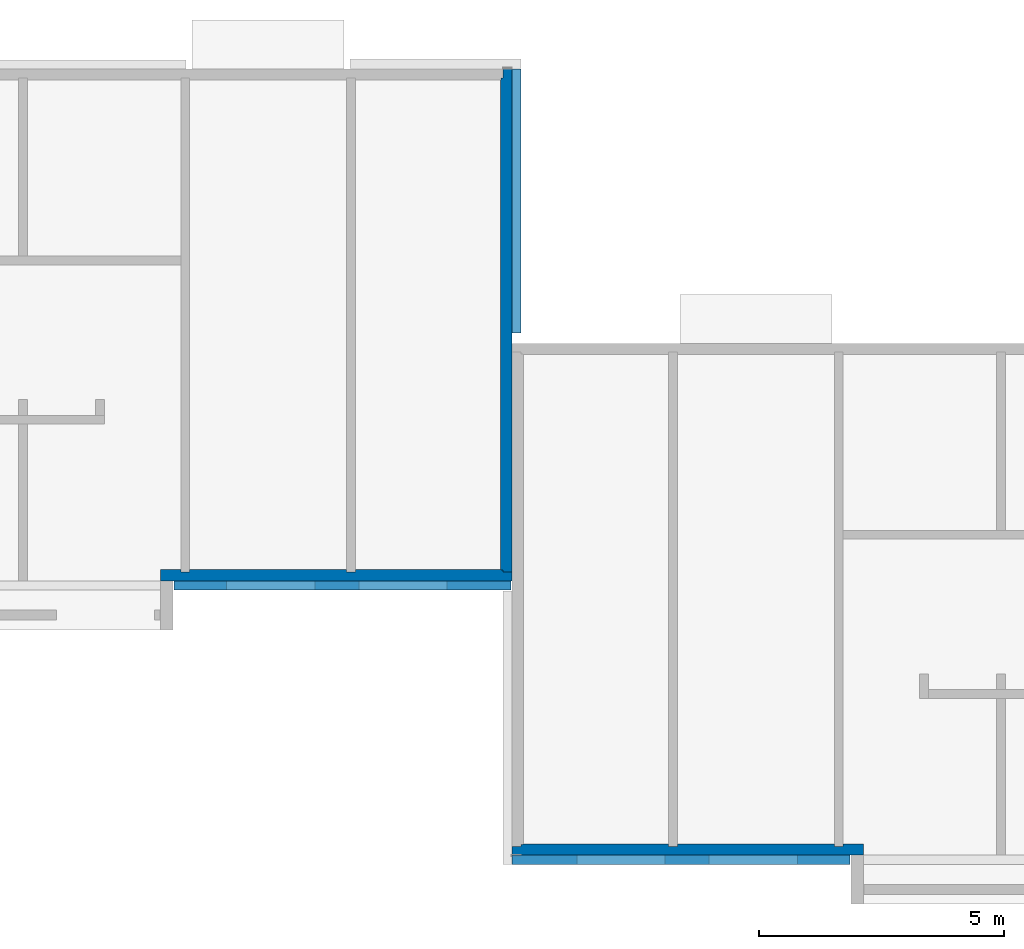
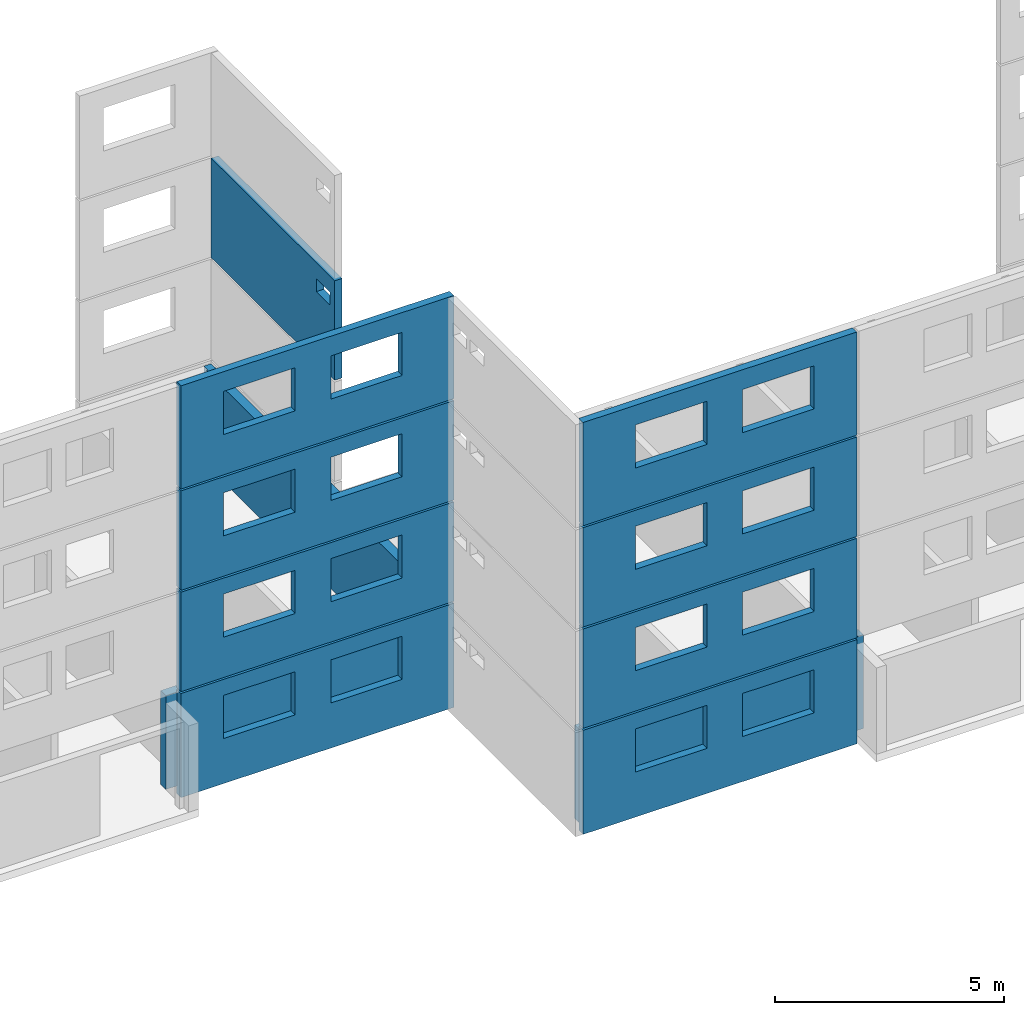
# One storey, part 12 of 15: 12 walls, 17 openings.
"""IFC2X3 building model written with IfcOpenShell, lengths in metres."""

from ifc_helpers import new_model, si_unit, frame, origin, place, context, project, spatial, faceted_brep, element, save


model = new_model("IFC2X3")

# Units and contexts
model_context = context("Model", 3, precision=1e-06, world=origin())
ifc_project = project(units=[si_unit("LENGTHUNIT", "METRE"), si_unit("PLANEANGLEUNIT", "RADIAN")], contexts=[model_context])

# Site, building, storey
site = spatial("IfcSite", under=ifc_project, CompositionType="ELEMENT")
building = spatial("IfcBuilding", under=site, CompositionType="ELEMENT")
storey = spatial("IfcBuildingStorey", under=building, Name="rdc", CompositionType="ELEMENT", Elevation=0.0)

# Wall, opening
placement = place(None, origin())
wall_1_placement = place(placement, frame((39.886999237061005, 5.080077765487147, 5.325000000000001), z_axis=(0.0, 0.0, 1.0), x_axis=(0.0, 1.0, 0.0)))
wall_1 = element("IfcWall", 1, at=wall_1_placement, inside=storey, Name="rdc1", context=model_context, shape_type="Brep", body=[
    faceted_brep([(0.0, 0.0, 2.65), (0.0, 0.187, 2.65), (0.0, 0.187, 0.0), (0.0, 0.0, 0.0), (0.0, 0.187, 2.65), (5.389999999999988, 0.187, 2.65), (5.389999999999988, 0.187, 0.0), (0.0, 0.187, 0.0), (5.389999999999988, 0.187, 2.65), (5.389999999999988, 0.0, 2.65), (5.389999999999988, 0.0, 0.0), (5.389999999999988, 0.187, 0.0), (5.389999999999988, 0.0, 2.65), (0.0, 0.0, 2.65), (0.0, 0.0, 0.0), (5.389999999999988, 0.0, 0.0), (0.0, 0.0, 2.65), (5.389999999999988, 0.0, 2.65), (5.389999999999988, 0.187, 2.65), (0.0, 0.187, 2.65), (0.0, 0.0, 0.0), (0.0, 0.187, 0.0), (5.389999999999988, 0.187, 0.0), (5.389999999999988, 0.0, 0.0)], [[[0, 1, 2, 3]], [[4, 5, 6, 7]], [[8, 9, 10, 11]], [[12, 13, 14, 15]], [[16, 17, 18, 19]], [[20, 21, 22, 23]]]),
])
opening_1_placement = place(placement, frame((39.886999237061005, 5.270077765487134, 7.210000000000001), z_axis=(0.0, 0.0, 1.0), x_axis=(0.0, 1.0, 0.0)))
element("IfcOpeningElement", 2, at=opening_1_placement, cuts=wall_1, Name="Opening", context=model_context, shape_type="Brep", body=[
    faceted_brep([(0.0, 0.187, 0.0), (0.6, 0.187, 0.0), (0.6, 0.0, 0.0), (0.0, 0.0, 0.0), (0.6, 0.0, 0.34), (0.6, 0.187, 0.34), (0.0, 0.187, 0.34), (0.0, 0.0, 0.34), (0.0, 0.187, 0.0), (0.0, 0.0, 0.0), (0.0, 0.0, 0.34), (0.0, 0.187, 0.34), (0.6, 0.187, 0.0), (0.0, 0.187, 0.0), (0.0, 0.187, 0.34), (0.6, 0.187, 0.34), (0.6, 0.0, 0.0), (0.6, 0.187, 0.0), (0.6, 0.187, 0.34), (0.6, 0.0, 0.34), (0.0, 0.0, 0.0), (0.6, 0.0, 0.0), (0.6, 0.0, 0.34), (0.0, 0.0, 0.34)], [[[0, 1, 2, 3]], [[4, 5, 6, 7]], [[8, 9, 10, 11]], [[12, 13, 14, 15]], [[16, 17, 18, 19]], [[20, 21, 22, 23]]]),
])

# Wall, openings
wall_2_placement = place(placement, frame((39.69999999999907, -5.766922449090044, 2.625000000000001), z_axis=(0.0, 0.0, 1.0), x_axis=(1.0, 0.0, 0.0)))
wall_2 = element("IfcWall", 3, at=wall_2_placement, inside=storey, context=model_context, shape_type="Brep", body=[
    faceted_brep([(0.0, 0.0, 2.65), (0.0, 0.187, 2.65), (0.0, 0.187, 0.0), (0.0, 0.0, 0.0), (0.0, 0.187, 2.65), (6.900000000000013, 0.187, 2.65), (6.900000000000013, 0.187, 0.0), (0.0, 0.187, 0.0), (6.900000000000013, 0.187, 2.65), (6.900000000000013, 0.0, 2.65), (6.900000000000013, 0.0, 0.0), (6.900000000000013, 0.187, 0.0), (6.900000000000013, 0.0, 2.65), (0.0, 0.0, 2.65), (0.0, 0.0, 0.0), (6.900000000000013, 0.0, 0.0), (0.0, 0.0, 2.65), (6.900000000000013, 0.0, 2.65), (6.900000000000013, 0.187, 2.65), (0.0, 0.187, 2.65), (0.0, 0.0, 0.0), (0.0, 0.187, 0.0), (6.900000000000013, 0.187, 0.0), (6.900000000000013, 0.0, 0.0)], [[[0, 1, 2, 3]], [[4, 5, 6, 7]], [[8, 9, 10, 11]], [[12, 13, 14, 15]], [[16, 17, 18, 19]], [[20, 21, 22, 23]]]),
])
opening_2_placement = place(placement, frame((41.024999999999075, -5.766922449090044, 3.700000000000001), z_axis=(0.0, 0.0, 1.0), x_axis=(1.0, 0.0, 0.0)))
element("IfcOpeningElement", 4, at=opening_2_placement, cuts=wall_2, Name="Opening", context=model_context, shape_type="Brep", body=[
    faceted_brep([(0.0, 0.187, 0.0), (1.8, 0.187, 0.0), (1.8, 0.0, 0.0), (0.0, 0.0, 0.0), (1.8, 0.0, 1.15), (1.8, 0.187, 1.15), (0.0, 0.187, 1.15), (0.0, 0.0, 1.15), (0.0, 0.187, 0.0), (0.0, 0.0, 0.0), (0.0, 0.0, 1.15), (0.0, 0.187, 1.15), (1.8, 0.187, 0.0), (0.0, 0.187, 0.0), (0.0, 0.187, 1.15), (1.8, 0.187, 1.15), (1.8, 0.0, 0.0), (1.8, 0.187, 0.0), (1.8, 0.187, 1.15), (1.8, 0.0, 1.15), (0.0, 0.0, 0.0), (1.8, 0.0, 0.0), (1.8, 0.0, 1.15), (0.0, 0.0, 1.15)], [[[0, 1, 2, 3]], [[4, 5, 6, 7]], [[8, 9, 10, 11]], [[12, 13, 14, 15]], [[16, 17, 18, 19]], [[20, 21, 22, 23]]]),
])
opening_3_placement = place(placement, frame((43.72499999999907, -5.766922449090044, 3.700000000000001), z_axis=(0.0, 0.0, 1.0), x_axis=(1.0, 0.0, 0.0)))
element("IfcOpeningElement", 5, at=opening_3_placement, cuts=wall_2, Name="Opening", context=model_context, shape_type="Brep", body=[
    faceted_brep([(0.0, 0.187, 0.0), (1.8, 0.187, 0.0), (1.8, 0.0, 0.0), (0.0, 0.0, 0.0), (1.8, 0.0, 1.15), (1.8, 0.187, 1.15), (0.0, 0.187, 1.15), (0.0, 0.0, 1.15), (0.0, 0.187, 0.0), (0.0, 0.0, 0.0), (0.0, 0.0, 1.15), (0.0, 0.187, 1.15), (1.8, 0.187, 0.0), (0.0, 0.187, 0.0), (0.0, 0.187, 1.15), (1.8, 0.187, 1.15), (1.8, 0.0, 0.0), (1.8, 0.187, 0.0), (1.8, 0.187, 1.15), (1.8, 0.0, 1.15), (0.0, 0.0, 0.0), (1.8, 0.0, 0.0), (1.8, 0.0, 1.15), (0.0, 0.0, 1.15)], [[[0, 1, 2, 3]], [[4, 5, 6, 7]], [[8, 9, 10, 11]], [[12, 13, 14, 15]], [[16, 17, 18, 19]], [[20, 21, 22, 23]]]),
])

wall_3_placement = place(placement, frame((32.80000054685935, -0.166751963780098, -0.2), z_axis=(0.0, 0.0, 1.0), x_axis=(1.0, 0.0, 0.0)))
wall_3 = element("IfcWall", 6, at=wall_3_placement, inside=storey, Name="rdc1", context=model_context, shape_type="Brep", body=[
    faceted_brep([(0.0, 0.0, 2.775), (0.0, 0.187, 2.775), (0.0, 0.187, 0.0), (0.0, 0.0, 0.0), (0.0, 0.187, 2.775), (6.874999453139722, 0.187, 2.775), (6.874999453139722, 0.187, 0.0), (0.0, 0.187, 0.0), (6.874999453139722, 0.187, 2.775), (6.874999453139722, 0.0, 2.775), (6.874999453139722, 0.0, 0.0), (6.874999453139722, 0.187, 0.0), (6.874999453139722, 0.0, 2.775), (0.0, 0.0, 2.775), (0.0, 0.0, 0.0), (6.874999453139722, 0.0, 0.0), (0.0, 0.0, 2.775), (6.874999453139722, 0.0, 2.775), (6.874999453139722, 0.187, 2.775), (0.0, 0.187, 2.775), (0.0, 0.0, 0.0), (0.0, 0.187, 0.0), (6.874999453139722, 0.187, 0.0), (6.874999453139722, 0.0, 0.0)], [[[0, 1, 2, 3]], [[4, 5, 6, 7]], [[8, 9, 10, 11]], [[12, 13, 14, 15]], [[16, 17, 18, 19]], [[20, 21, 22, 23]]]),
])
opening_4_placement = place(placement, frame((33.875000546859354, -0.166751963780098, 1.0), z_axis=(0.0, 0.0, 1.0), x_axis=(1.0, 0.0, 0.0)))
element("IfcOpeningElement", 7, at=opening_4_placement, cuts=wall_3, Name="Opening", context=model_context, shape_type="Brep", body=[
    faceted_brep([(0.0, 0.187, 0.0), (1.8, 0.187, 0.0), (1.8, 0.0, 0.0), (0.0, 0.0, 0.0), (1.8, 0.0, 1.15), (1.8, 0.187, 1.15), (0.0, 0.187, 1.15), (0.0, 0.0, 1.15), (0.0, 0.187, 0.0), (0.0, 0.0, 0.0), (0.0, 0.0, 1.15), (0.0, 0.187, 1.15), (1.8, 0.187, 0.0), (0.0, 0.187, 0.0), (0.0, 0.187, 1.15), (1.8, 0.187, 1.15), (1.8, 0.0, 0.0), (1.8, 0.187, 0.0), (1.8, 0.187, 1.15), (1.8, 0.0, 1.15), (0.0, 0.0, 0.0), (1.8, 0.0, 0.0), (1.8, 0.0, 1.15), (0.0, 0.0, 1.15)], [[[0, 1, 2, 3]], [[4, 5, 6, 7]], [[8, 9, 10, 11]], [[12, 13, 14, 15]], [[16, 17, 18, 19]], [[20, 21, 22, 23]]]),
])
opening_5_placement = place(placement, frame((36.57500054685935, -0.166751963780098, 1.0), z_axis=(0.0, 0.0, 1.0), x_axis=(1.0, 0.0, 0.0)))
element("IfcOpeningElement", 8, at=opening_5_placement, cuts=wall_3, Name="Opening", context=model_context, shape_type="Brep", body=[
    faceted_brep([(0.0, 0.187, 0.0), (1.8, 0.187, 0.0), (1.8, 0.0, 0.0), (0.0, 0.0, 0.0), (1.8, 0.0, 1.15), (1.8, 0.187, 1.15), (0.0, 0.187, 1.15), (0.0, 0.0, 1.15), (0.0, 0.187, 0.0), (0.0, 0.0, 0.0), (0.0, 0.0, 1.15), (0.0, 0.187, 1.15), (1.8, 0.187, 0.0), (0.0, 0.187, 0.0), (0.0, 0.187, 1.15), (1.8, 0.187, 1.15), (1.8, 0.0, 0.0), (1.8, 0.187, 0.0), (1.8, 0.187, 1.15), (1.8, 0.0, 1.15), (0.0, 0.0, 0.0), (1.8, 0.0, 0.0), (1.8, 0.0, 1.15), (0.0, 0.0, 1.15)], [[[0, 1, 2, 3]], [[4, 5, 6, 7]], [[8, 9, 10, 11]], [[12, 13, 14, 15]], [[16, 17, 18, 19]], [[20, 21, 22, 23]]]),
])

wall_4_placement = place(placement, frame((32.80000054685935, -0.166751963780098, 2.625), z_axis=(0.0, 0.0, 1.0), x_axis=(1.0, 0.0, 0.0)))
wall_4 = element("IfcWall", 9, at=wall_4_placement, inside=storey, Name="rdc1", context=model_context, shape_type="Brep", body=[
    faceted_brep([(0.0, 0.0, 2.65), (0.0, 0.187, 2.65), (0.0, 0.187, 0.0), (0.0, 0.0, 0.0), (0.0, 0.187, 2.65), (6.874999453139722, 0.187, 2.65), (6.874999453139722, 0.187, 0.0), (0.0, 0.187, 0.0), (6.874999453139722, 0.187, 2.65), (6.874999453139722, 0.0, 2.65), (6.874999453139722, 0.0, 0.0), (6.874999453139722, 0.187, 0.0), (6.874999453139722, 0.0, 2.65), (0.0, 0.0, 2.65), (0.0, 0.0, 0.0), (6.874999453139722, 0.0, 0.0), (0.0, 0.0, 2.65), (6.874999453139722, 0.0, 2.65), (6.874999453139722, 0.187, 2.65), (0.0, 0.187, 2.65), (0.0, 0.0, 0.0), (0.0, 0.187, 0.0), (6.874999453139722, 0.187, 0.0), (6.874999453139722, 0.0, 0.0)], [[[0, 1, 2, 3]], [[4, 5, 6, 7]], [[8, 9, 10, 11]], [[12, 13, 14, 15]], [[16, 17, 18, 19]], [[20, 21, 22, 23]]]),
])
opening_6_placement = place(placement, frame((33.875000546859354, -0.166751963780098, 3.7), z_axis=(0.0, 0.0, 1.0), x_axis=(1.0, 0.0, 0.0)))
element("IfcOpeningElement", 10, at=opening_6_placement, cuts=wall_4, Name="Opening", context=model_context, shape_type="Brep", body=[
    faceted_brep([(0.0, 0.187, 0.0), (1.8, 0.187, 0.0), (1.8, 0.0, 0.0), (0.0, 0.0, 0.0), (1.8, 0.0, 1.15), (1.8, 0.187, 1.15), (0.0, 0.187, 1.15), (0.0, 0.0, 1.15), (0.0, 0.187, 0.0), (0.0, 0.0, 0.0), (0.0, 0.0, 1.15), (0.0, 0.187, 1.15), (1.8, 0.187, 0.0), (0.0, 0.187, 0.0), (0.0, 0.187, 1.15), (1.8, 0.187, 1.15), (1.8, 0.0, 0.0), (1.8, 0.187, 0.0), (1.8, 0.187, 1.15), (1.8, 0.0, 1.15), (0.0, 0.0, 0.0), (1.8, 0.0, 0.0), (1.8, 0.0, 1.15), (0.0, 0.0, 1.15)], [[[0, 1, 2, 3]], [[4, 5, 6, 7]], [[8, 9, 10, 11]], [[12, 13, 14, 15]], [[16, 17, 18, 19]], [[20, 21, 22, 23]]]),
])
opening_7_placement = place(placement, frame((36.57500054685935, -0.166751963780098, 3.7), z_axis=(0.0, 0.0, 1.0), x_axis=(1.0, 0.0, 0.0)))
element("IfcOpeningElement", 11, at=opening_7_placement, cuts=wall_4, Name="Opening", context=model_context, shape_type="Brep", body=[
    faceted_brep([(0.0, 0.187, 0.0), (1.8, 0.187, 0.0), (1.8, 0.0, 0.0), (0.0, 0.0, 0.0), (1.8, 0.0, 1.15), (1.8, 0.187, 1.15), (0.0, 0.187, 1.15), (0.0, 0.0, 1.15), (0.0, 0.187, 0.0), (0.0, 0.0, 0.0), (0.0, 0.0, 1.15), (0.0, 0.187, 1.15), (1.8, 0.187, 0.0), (0.0, 0.187, 0.0), (0.0, 0.187, 1.15), (1.8, 0.187, 1.15), (1.8, 0.0, 0.0), (1.8, 0.187, 0.0), (1.8, 0.187, 1.15), (1.8, 0.0, 1.15), (0.0, 0.0, 0.0), (1.8, 0.0, 0.0), (1.8, 0.0, 1.15), (0.0, 0.0, 1.15)], [[[0, 1, 2, 3]], [[4, 5, 6, 7]], [[8, 9, 10, 11]], [[12, 13, 14, 15]], [[16, 17, 18, 19]], [[20, 21, 22, 23]]]),
])

# Wall
wall_5_placement = place(placement, frame((39.69999999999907, -5.579922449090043, 0.0), z_axis=(0.0, 0.0, 1.0), x_axis=(1.0, 0.0, 0.0)))
element("IfcWall", 12, at=wall_5_placement, inside=storey, context=model_context, shape_type="Brep", body=[
    faceted_brep([(7.175000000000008, 0.0, 2.5), (0.0, 0.0, 2.5), (0.0, 0.0, 0.0), (7.175000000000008, 0.0, 0.0), (0.0, 0.0, 2.5), (0.0, 0.18, 2.5), (0.0, 0.18, 0.0), (0.0, 0.0, 0.0), (0.0, 0.18, 2.5), (0.18, 0.18, 2.5), (0.18, 0.18, 0.0), (0.0, 0.18, 0.0), (0.18, 0.18, 2.5), (0.18, 0.22, 2.5), (0.18, 0.22, 0.0), (0.18, 0.18, 0.0), (0.18, 0.22, 2.5), (0.22, 0.22, 2.5), (0.22, 0.22, 0.0), (0.18, 0.22, 0.0), (0.22, 0.22, 2.5), (0.22, 0.23, 2.5), (0.22, 0.23, 0.0), (0.22, 0.22, 0.0), (0.22, 0.23, 2.5), (3.200000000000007, 0.23, 2.5), (3.200000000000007, 0.23, 0.0), (0.22, 0.23, 0.0), (3.200000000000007, 0.23, 2.5), (3.200000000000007, 0.18, 2.5), (3.200000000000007, 0.18, 0.0), (3.200000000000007, 0.23, 0.0), (3.200000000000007, 0.18, 2.5), (3.380000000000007, 0.18, 2.5), (3.380000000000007, 0.18, 0.0), (3.200000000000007, 0.18, 0.0), (3.380000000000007, 0.18, 2.5), (3.380000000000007, 0.23, 2.5), (3.380000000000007, 0.23, 0.0), (3.380000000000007, 0.18, 0.0), (3.380000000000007, 0.23, 2.5), (6.580000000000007, 0.23, 2.5), (6.580000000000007, 0.23, 0.0), (3.380000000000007, 0.23, 0.0), (6.580000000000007, 0.23, 2.5), (6.580000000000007, 0.18, 2.5), (6.580000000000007, 0.18, 0.0), (6.580000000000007, 0.23, 0.0), (6.580000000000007, 0.18, 2.5), (6.760000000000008, 0.18, 2.5), (6.760000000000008, 0.18, 0.0), (6.580000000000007, 0.18, 0.0), (6.760000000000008, 0.18, 2.5), (6.760000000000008, 0.23, 2.5), (6.760000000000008, 0.23, 0.0), (6.760000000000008, 0.18, 0.0), (6.760000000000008, 0.23, 2.5), (7.175000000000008, 0.23, 2.5), (7.175000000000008, 0.23, 0.0), (6.760000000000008, 0.23, 0.0), (7.175000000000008, 0.23, 2.5), (7.175000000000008, 0.0, 2.5), (7.175000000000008, 0.0, 0.0), (7.175000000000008, 0.23, 0.0), (7.175000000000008, 0.0, 2.5), (7.175000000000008, 0.23, 2.5), (6.760000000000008, 0.23, 2.5), (6.760000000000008, 0.18, 2.5), (6.580000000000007, 0.18, 2.5), (6.580000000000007, 0.23, 2.5), (3.380000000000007, 0.23, 2.5), (3.380000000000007, 0.18, 2.5), (3.200000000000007, 0.18, 2.5), (3.200000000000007, 0.23, 2.5), (0.22, 0.23, 2.5), (0.22, 0.22, 2.5), (0.18, 0.22, 2.5), (0.18, 0.18, 2.5), (0.0, 0.18, 2.5), (0.0, 0.0, 2.5), (7.175000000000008, 0.0, 0.0), (0.0, 0.0, 0.0), (0.0, 0.18, 0.0), (0.18, 0.18, 0.0), (0.18, 0.22, 0.0), (0.22, 0.22, 0.0), (0.22, 0.23, 0.0), (3.200000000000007, 0.23, 0.0), (3.200000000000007, 0.18, 0.0), (3.380000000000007, 0.18, 0.0), (3.380000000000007, 0.23, 0.0), (6.580000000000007, 0.23, 0.0), (6.580000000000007, 0.18, 0.0), (6.760000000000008, 0.18, 0.0), (6.760000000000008, 0.23, 0.0), (7.175000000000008, 0.23, 0.0)], [[[0, 1, 2, 3]], [[4, 5, 6, 7]], [[8, 9, 10, 11]], [[12, 13, 14, 15]], [[16, 17, 18, 19]], [[20, 21, 22, 23]], [[24, 25, 26, 27]], [[28, 29, 30, 31]], [[32, 33, 34, 35]], [[36, 37, 38, 39]], [[40, 41, 42, 43]], [[44, 45, 46, 47]], [[48, 49, 50, 51]], [[52, 53, 54, 55]], [[56, 57, 58, 59]], [[60, 61, 62, 63]], [[64, 65, 66, 67, 68, 69, 70, 71, 72, 73, 74, 75, 76, 77, 78, 79]], [[80, 81, 82, 83, 84, 85, 86, 87, 88, 89, 90, 91, 92, 93, 94, 95]]]),
])

# Wall, openings
wall_6_placement = place(placement, frame((32.80000054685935, -0.166751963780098, 5.325000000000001), z_axis=(0.0, 0.0, 1.0), x_axis=(1.0, 0.0, 0.0)))
wall_6 = element("IfcWall", 13, at=wall_6_placement, inside=storey, Name="rdc1", context=model_context, shape_type="Brep", body=[
    faceted_brep([(0.0, 0.0, 2.65), (0.0, 0.187, 2.65), (0.0, 0.187, 0.0), (0.0, 0.0, 0.0), (0.0, 0.187, 2.65), (6.874999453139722, 0.187, 2.65), (6.874999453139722, 0.187, 0.0), (0.0, 0.187, 0.0), (6.874999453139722, 0.187, 2.65), (6.874999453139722, 0.0, 2.65), (6.874999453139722, 0.0, 0.0), (6.874999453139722, 0.187, 0.0), (6.874999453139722, 0.0, 2.65), (0.0, 0.0, 2.65), (0.0, 0.0, 0.0), (6.874999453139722, 0.0, 0.0), (0.0, 0.0, 2.65), (6.874999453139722, 0.0, 2.65), (6.874999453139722, 0.187, 2.65), (0.0, 0.187, 2.65), (0.0, 0.0, 0.0), (0.0, 0.187, 0.0), (6.874999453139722, 0.187, 0.0), (6.874999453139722, 0.0, 0.0)], [[[0, 1, 2, 3]], [[4, 5, 6, 7]], [[8, 9, 10, 11]], [[12, 13, 14, 15]], [[16, 17, 18, 19]], [[20, 21, 22, 23]]]),
])
opening_8_placement = place(placement, frame((36.57500054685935, -0.166751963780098, 6.4), z_axis=(0.0, 0.0, 1.0), x_axis=(1.0, 0.0, 0.0)))
element("IfcOpeningElement", 14, at=opening_8_placement, cuts=wall_6, Name="Opening", context=model_context, shape_type="Brep", body=[
    faceted_brep([(0.0, 0.187, 0.0), (1.8, 0.187, 0.0), (1.8, 0.0, 0.0), (0.0, 0.0, 0.0), (1.8, 0.0, 1.15), (1.8, 0.187, 1.15), (0.0, 0.187, 1.15), (0.0, 0.0, 1.15), (0.0, 0.187, 0.0), (0.0, 0.0, 0.0), (0.0, 0.0, 1.15), (0.0, 0.187, 1.15), (1.8, 0.187, 0.0), (0.0, 0.187, 0.0), (0.0, 0.187, 1.15), (1.8, 0.187, 1.15), (1.8, 0.0, 0.0), (1.8, 0.187, 0.0), (1.8, 0.187, 1.15), (1.8, 0.0, 1.15), (0.0, 0.0, 0.0), (1.8, 0.0, 0.0), (1.8, 0.0, 1.15), (0.0, 0.0, 1.15)], [[[0, 1, 2, 3]], [[4, 5, 6, 7]], [[8, 9, 10, 11]], [[12, 13, 14, 15]], [[16, 17, 18, 19]], [[20, 21, 22, 23]]]),
])
opening_9_placement = place(placement, frame((33.875000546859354, -0.166751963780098, 6.4), z_axis=(0.0, 0.0, 1.0), x_axis=(1.0, 0.0, 0.0)))
element("IfcOpeningElement", 15, at=opening_9_placement, cuts=wall_6, Name="Opening", context=model_context, shape_type="Brep", body=[
    faceted_brep([(0.0, 0.187, 0.0), (1.8, 0.187, 0.0), (1.8, 0.0, 0.0), (0.0, 0.0, 0.0), (1.8, 0.0, 1.15), (1.8, 0.187, 1.15), (0.0, 0.187, 1.15), (0.0, 0.0, 1.15), (0.0, 0.187, 0.0), (0.0, 0.0, 0.0), (0.0, 0.0, 1.15), (0.0, 0.187, 1.15), (1.8, 0.187, 0.0), (0.0, 0.187, 0.0), (0.0, 0.187, 1.15), (1.8, 0.187, 1.15), (1.8, 0.0, 0.0), (1.8, 0.187, 0.0), (1.8, 0.187, 1.15), (1.8, 0.0, 1.15), (0.0, 0.0, 0.0), (1.8, 0.0, 0.0), (1.8, 0.0, 1.15), (0.0, 0.0, 1.15)], [[[0, 1, 2, 3]], [[4, 5, 6, 7]], [[8, 9, 10, 11]], [[12, 13, 14, 15]], [[16, 17, 18, 19]], [[20, 21, 22, 23]]]),
])

wall_7_placement = place(placement, frame((39.69999999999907, -5.766922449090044, -0.199999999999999), z_axis=(0.0, 0.0, 1.0), x_axis=(1.0, 0.0, 0.0)))
wall_7 = element("IfcWall", 16, at=wall_7_placement, inside=storey, Name="rdc3", context=model_context, shape_type="Brep", body=[
    faceted_brep([(0.0, 0.0, 2.775), (0.0, 0.187, 2.775), (0.0, 0.187, 0.0), (0.0, 0.0, 0.0), (0.0, 0.187, 2.775), (6.900000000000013, 0.187, 2.775), (6.900000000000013, 0.187, 0.0), (0.0, 0.187, 0.0), (6.900000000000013, 0.187, 2.775), (6.900000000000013, 0.0, 2.775), (6.900000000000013, 0.0, 0.0), (6.900000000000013, 0.187, 0.0), (6.900000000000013, 0.0, 2.775), (0.0, 0.0, 2.775), (0.0, 0.0, 0.0), (6.900000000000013, 0.0, 0.0), (0.0, 0.0, 2.775), (6.900000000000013, 0.0, 2.775), (6.900000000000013, 0.187, 2.775), (0.0, 0.187, 2.775), (0.0, 0.0, 0.0), (0.0, 0.187, 0.0), (6.900000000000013, 0.187, 0.0), (6.900000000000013, 0.0, 0.0)], [[[0, 1, 2, 3]], [[4, 5, 6, 7]], [[8, 9, 10, 11]], [[12, 13, 14, 15]], [[16, 17, 18, 19]], [[20, 21, 22, 23]]]),
])
opening_10_placement = place(placement, frame((41.024999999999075, -5.766922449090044, 1.0), z_axis=(0.0, 0.0, 1.0), x_axis=(1.0, 0.0, 0.0)))
element("IfcOpeningElement", 17, at=opening_10_placement, cuts=wall_7, Name="Opening", context=model_context, shape_type="Brep", body=[
    faceted_brep([(0.0, 0.187, 0.0), (1.8, 0.187, 0.0), (1.8, 0.0, 0.0), (0.0, 0.0, 0.0), (1.8, 0.0, 1.15), (1.8, 0.187, 1.15), (0.0, 0.187, 1.15), (0.0, 0.0, 1.15), (0.0, 0.187, 0.0), (0.0, 0.0, 0.0), (0.0, 0.0, 1.15), (0.0, 0.187, 1.15), (1.8, 0.187, 0.0), (0.0, 0.187, 0.0), (0.0, 0.187, 1.15), (1.8, 0.187, 1.15), (1.8, 0.0, 0.0), (1.8, 0.187, 0.0), (1.8, 0.187, 1.15), (1.8, 0.0, 1.15), (0.0, 0.0, 0.0), (1.8, 0.0, 0.0), (1.8, 0.0, 1.15), (0.0, 0.0, 1.15)], [[[0, 1, 2, 3]], [[4, 5, 6, 7]], [[8, 9, 10, 11]], [[12, 13, 14, 15]], [[16, 17, 18, 19]], [[20, 21, 22, 23]]]),
])
opening_11_placement = place(placement, frame((43.72499999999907, -5.766922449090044, 1.0), z_axis=(0.0, 0.0, 1.0), x_axis=(1.0, 0.0, 0.0)))
element("IfcOpeningElement", 18, at=opening_11_placement, cuts=wall_7, Name="Opening", context=model_context, shape_type="Brep", body=[
    faceted_brep([(0.0, 0.187, 0.0), (1.8, 0.187, 0.0), (1.8, 0.0, 0.0), (0.0, 0.0, 0.0), (1.8, 0.0, 1.15), (1.8, 0.187, 1.15), (0.0, 0.187, 1.15), (0.0, 0.0, 1.15), (0.0, 0.187, 0.0), (0.0, 0.0, 0.0), (0.0, 0.0, 1.15), (0.0, 0.187, 1.15), (1.8, 0.187, 0.0), (0.0, 0.187, 0.0), (0.0, 0.187, 1.15), (1.8, 0.187, 1.15), (1.8, 0.0, 0.0), (1.8, 0.187, 0.0), (1.8, 0.187, 1.15), (1.8, 0.0, 1.15), (0.0, 0.0, 0.0), (1.8, 0.0, 0.0), (1.8, 0.0, 1.15), (0.0, 0.0, 1.15)], [[[0, 1, 2, 3]], [[4, 5, 6, 7]], [[8, 9, 10, 11]], [[12, 13, 14, 15]], [[16, 17, 18, 19]], [[20, 21, 22, 23]]]),
])

# Wall
wall_8_placement = place(placement, frame((32.52499999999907, 0.020077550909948, 0.0), z_axis=(0.0, 0.0, 1.0), x_axis=(1.0, 0.0, 0.0)))
element("IfcWall", 19, at=wall_8_placement, inside=storey, context=model_context, shape_type="Brep", body=[
    faceted_brep([(0.414999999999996, 0.23, 2.5), (0.414999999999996, 0.18, 2.5), (0.414999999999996, 0.18, 0.0), (0.414999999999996, 0.23, 0.0), (0.414999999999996, 0.18, 2.5), (0.594999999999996, 0.18, 2.5), (0.594999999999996, 0.18, 0.0), (0.414999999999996, 0.18, 0.0), (0.594999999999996, 0.18, 2.5), (0.594999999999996, 0.23, 2.5), (0.594999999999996, 0.23, 0.0), (0.594999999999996, 0.18, 0.0), (0.594999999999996, 0.23, 2.5), (3.795000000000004, 0.23, 2.5), (3.795000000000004, 0.23, 0.0), (0.594999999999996, 0.23, 0.0), (3.795000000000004, 0.23, 2.5), (3.795000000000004, 0.18, 2.5), (3.795000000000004, 0.18, 0.0), (3.795000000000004, 0.23, 0.0), (3.795000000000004, 0.18, 2.5), (3.975000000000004, 0.18, 2.5), (3.975000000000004, 0.18, 0.0), (3.795000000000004, 0.18, 0.0), (3.975000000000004, 0.18, 2.5), (3.975000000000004, 0.23, 2.5), (3.975000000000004, 0.23, 0.0), (3.975000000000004, 0.18, 0.0), (3.975000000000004, 0.23, 2.5), (6.954999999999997, 0.23, 2.5), (6.954999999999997, 0.23, 0.0), (3.975000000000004, 0.23, 0.0), (6.954999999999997, 0.23, 2.5), (6.954999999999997, 0.22, 2.5), (6.954999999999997, 0.22, 0.0), (6.954999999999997, 0.23, 0.0), (6.954999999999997, 0.22, 2.5), (6.994999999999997, 0.22, 2.5), (6.994999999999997, 0.22, 0.0), (6.954999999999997, 0.22, 0.0), (6.994999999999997, 0.22, 2.5), (6.994999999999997, 0.18, 2.5), (6.994999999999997, 0.18, 0.0), (6.994999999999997, 0.22, 0.0), (6.994999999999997, 0.18, 2.5), (7.174999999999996, 0.18, 2.5), (7.174999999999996, 0.18, 0.0), (6.994999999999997, 0.18, 0.0), (7.174999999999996, 0.18, 2.5), (7.174999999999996, 0.0, 2.5), (7.174999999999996, 0.0, 0.0), (7.174999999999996, 0.18, 0.0), (7.174999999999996, 0.0, 2.5), (0.0, 0.0, 2.5), (0.0, 0.0, 0.0), (7.174999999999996, 0.0, 0.0), (0.0, 0.0, 2.5), (0.0, 0.23, 2.5), (0.0, 0.23, 0.0), (0.0, 0.0, 0.0), (0.0, 0.23, 2.5), (0.414999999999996, 0.23, 2.5), (0.414999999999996, 0.23, 0.0), (0.0, 0.23, 0.0), (0.414999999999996, 0.23, 2.5), (0.0, 0.23, 2.5), (0.0, 0.0, 2.5), (7.174999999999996, 0.0, 2.5), (7.174999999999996, 0.18, 2.5), (6.994999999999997, 0.18, 2.5), (6.994999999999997, 0.22, 2.5), (6.954999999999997, 0.22, 2.5), (6.954999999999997, 0.23, 2.5), (3.975000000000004, 0.23, 2.5), (3.975000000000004, 0.18, 2.5), (3.795000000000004, 0.18, 2.5), (3.795000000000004, 0.23, 2.5), (0.594999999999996, 0.23, 2.5), (0.594999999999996, 0.18, 2.5), (0.414999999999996, 0.18, 2.5), (0.414999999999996, 0.23, 0.0), (0.414999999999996, 0.18, 0.0), (0.594999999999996, 0.18, 0.0), (0.594999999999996, 0.23, 0.0), (3.795000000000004, 0.23, 0.0), (3.795000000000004, 0.18, 0.0), (3.975000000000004, 0.18, 0.0), (3.975000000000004, 0.23, 0.0), (6.954999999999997, 0.23, 0.0), (6.954999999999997, 0.22, 0.0), (6.994999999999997, 0.22, 0.0), (6.994999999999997, 0.18, 0.0), (7.174999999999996, 0.18, 0.0), (7.174999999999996, 0.0, 0.0), (0.0, 0.0, 0.0), (0.0, 0.23, 0.0)], [[[0, 1, 2, 3]], [[4, 5, 6, 7]], [[8, 9, 10, 11]], [[12, 13, 14, 15]], [[16, 17, 18, 19]], [[20, 21, 22, 23]], [[24, 25, 26, 27]], [[28, 29, 30, 31]], [[32, 33, 34, 35]], [[36, 37, 38, 39]], [[40, 41, 42, 43]], [[44, 45, 46, 47]], [[48, 49, 50, 51]], [[52, 53, 54, 55]], [[56, 57, 58, 59]], [[60, 61, 62, 63]], [[64, 65, 66, 67, 68, 69, 70, 71, 72, 73, 74, 75, 76, 77, 78, 79]], [[80, 81, 82, 83, 84, 85, 86, 87, 88, 89, 90, 91, 92, 93, 94, 95]]]),
])

# Wall, openings
wall_9_placement = place(placement, frame((32.80000054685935, -0.166751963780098, 8.025000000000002), z_axis=(0.0, 0.0, 1.0), x_axis=(1.0, 0.0, 0.0)))
wall_9 = element("IfcWall", 20, at=wall_9_placement, inside=storey, Name="rdc1", context=model_context, shape_type="Brep", body=[
    faceted_brep([(0.0, 0.0, 2.749999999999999), (0.0, 0.187, 2.749999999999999), (0.0, 0.187, 0.0), (0.0, 0.0, 0.0), (0.0, 0.187, 2.749999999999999), (6.874999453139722, 0.187, 2.749999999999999), (6.874999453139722, 0.187, 0.0), (0.0, 0.187, 0.0), (6.874999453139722, 0.187, 2.749999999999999), (6.874999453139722, 0.0, 2.749999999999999), (6.874999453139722, 0.0, 0.0), (6.874999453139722, 0.187, 0.0), (6.874999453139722, 0.0, 2.749999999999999), (0.0, 0.0, 2.749999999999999), (0.0, 0.0, 0.0), (6.874999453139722, 0.0, 0.0), (0.0, 0.0, 2.749999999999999), (6.874999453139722, 0.0, 2.749999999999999), (6.874999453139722, 0.187, 2.749999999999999), (0.0, 0.187, 2.749999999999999), (0.0, 0.0, 0.0), (0.0, 0.187, 0.0), (6.874999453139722, 0.187, 0.0), (6.874999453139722, 0.0, 0.0)], [[[0, 1, 2, 3]], [[4, 5, 6, 7]], [[8, 9, 10, 11]], [[12, 13, 14, 15]], [[16, 17, 18, 19]], [[20, 21, 22, 23]]]),
])
opening_12_placement = place(placement, frame((33.875000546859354, -0.166751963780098, 9.100000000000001), z_axis=(0.0, 0.0, 1.0), x_axis=(1.0, 0.0, 0.0)))
element("IfcOpeningElement", 21, at=opening_12_placement, cuts=wall_9, Name="Opening", context=model_context, shape_type="Brep", body=[
    faceted_brep([(0.0, 0.187, 0.0), (1.8, 0.187, 0.0), (1.8, 0.0, 0.0), (0.0, 0.0, 0.0), (1.8, 0.0, 1.15), (1.8, 0.187, 1.15), (0.0, 0.187, 1.15), (0.0, 0.0, 1.15), (0.0, 0.187, 0.0), (0.0, 0.0, 0.0), (0.0, 0.0, 1.15), (0.0, 0.187, 1.15), (1.8, 0.187, 0.0), (0.0, 0.187, 0.0), (0.0, 0.187, 1.15), (1.8, 0.187, 1.15), (1.8, 0.0, 0.0), (1.8, 0.187, 0.0), (1.8, 0.187, 1.15), (1.8, 0.0, 1.15), (0.0, 0.0, 0.0), (1.8, 0.0, 0.0), (1.8, 0.0, 1.15), (0.0, 0.0, 1.15)], [[[0, 1, 2, 3]], [[4, 5, 6, 7]], [[8, 9, 10, 11]], [[12, 13, 14, 15]], [[16, 17, 18, 19]], [[20, 21, 22, 23]]]),
])
opening_13_placement = place(placement, frame((36.57500054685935, -0.166751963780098, 9.100000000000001), z_axis=(0.0, 0.0, 1.0), x_axis=(1.0, 0.0, 0.0)))
element("IfcOpeningElement", 22, at=opening_13_placement, cuts=wall_9, Name="Opening", context=model_context, shape_type="Brep", body=[
    faceted_brep([(0.0, 0.187, 0.0), (1.8, 0.187, 0.0), (1.8, 0.0, 0.0), (0.0, 0.0, 0.0), (1.8, 0.0, 1.15), (1.8, 0.187, 1.15), (0.0, 0.187, 1.15), (0.0, 0.0, 1.15), (0.0, 0.187, 0.0), (0.0, 0.0, 0.0), (0.0, 0.0, 1.15), (0.0, 0.187, 1.15), (1.8, 0.187, 0.0), (0.0, 0.187, 0.0), (0.0, 0.187, 1.15), (1.8, 0.187, 1.15), (1.8, 0.0, 0.0), (1.8, 0.187, 0.0), (1.8, 0.187, 1.15), (1.8, 0.0, 1.15), (0.0, 0.0, 0.0), (1.8, 0.0, 0.0), (1.8, 0.0, 1.15), (0.0, 0.0, 1.15)], [[[0, 1, 2, 3]], [[4, 5, 6, 7]], [[8, 9, 10, 11]], [[12, 13, 14, 15]], [[16, 17, 18, 19]], [[20, 21, 22, 23]]]),
])

# Wall
wall_10_placement = place(placement, frame((39.69999999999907, 0.200077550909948, 0.0), z_axis=(0.0, 0.0, 1.0), x_axis=(0.0, 1.0, 0.0)))
element("IfcWall", 23, at=wall_10_placement, inside=storey, context=model_context, shape_type="Brep", body=[
    faceted_brep([(0.04, 0.18, 2.5), (0.04, 0.22, 2.5), (0.04, 0.22, 0.0), (0.04, 0.18, 0.0), (0.04, 0.22, 2.5), (0.05, 0.22, 2.5), (0.05, 0.22, 0.0), (0.04, 0.22, 0.0), (0.05, 0.22, 2.5), (0.05, 0.23, 2.5), (0.05, 0.23, 0.0), (0.05, 0.22, 0.0), (0.05, 0.23, 2.5), (10.05000021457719, 0.23, 2.5), (10.05000021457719, 0.23, 0.0), (0.05, 0.23, 0.0), (10.05000021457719, 0.23, 2.5), (10.05000021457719, 0.22, 2.5), (10.05000021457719, 0.22, 0.0), (10.05000021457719, 0.23, 0.0), (10.05000021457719, 0.22, 2.5), (10.090000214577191, 0.22, 2.5), (10.090000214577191, 0.22, 0.0), (10.05000021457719, 0.22, 0.0), (10.090000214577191, 0.22, 2.5), (10.090000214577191, 0.18, 2.5), (10.090000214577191, 0.18, 0.0), (10.090000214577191, 0.22, 0.0), (10.090000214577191, 0.18, 2.5), (10.270000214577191, 0.18, 2.5), (10.270000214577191, 0.18, 0.0), (10.090000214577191, 0.18, 0.0), (10.270000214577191, 0.18, 2.5), (10.270000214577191, 0.0, 2.5), (10.270000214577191, 0.0, 0.0), (10.270000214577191, 0.18, 0.0), (10.270000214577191, 0.0, 2.5), (0.0, 0.0, 2.5), (0.0, 0.0, 0.0), (10.270000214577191, 0.0, 0.0), (0.0, 0.0, 2.5), (0.0, 0.18, 2.5), (0.0, 0.18, 0.0), (0.0, 0.0, 0.0), (0.0, 0.18, 2.5), (0.04, 0.18, 2.5), (0.04, 0.18, 0.0), (0.0, 0.18, 0.0), (0.04, 0.18, 2.5), (0.0, 0.18, 2.5), (0.0, 0.0, 2.5), (10.270000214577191, 0.0, 2.5), (10.270000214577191, 0.18, 2.5), (10.090000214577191, 0.18, 2.5), (10.090000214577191, 0.22, 2.5), (10.05000021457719, 0.22, 2.5), (10.05000021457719, 0.23, 2.5), (0.05, 0.23, 2.5), (0.05, 0.22, 2.5), (0.04, 0.22, 2.5), (0.04, 0.18, 0.0), (0.04, 0.22, 0.0), (0.05, 0.22, 0.0), (0.05, 0.23, 0.0), (10.05000021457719, 0.23, 0.0), (10.05000021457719, 0.22, 0.0), (10.090000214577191, 0.22, 0.0), (10.090000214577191, 0.18, 0.0), (10.270000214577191, 0.18, 0.0), (10.270000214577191, 0.0, 0.0), (0.0, 0.0, 0.0), (0.0, 0.18, 0.0)], [[[0, 1, 2, 3]], [[4, 5, 6, 7]], [[8, 9, 10, 11]], [[12, 13, 14, 15]], [[16, 17, 18, 19]], [[20, 21, 22, 23]], [[24, 25, 26, 27]], [[28, 29, 30, 31]], [[32, 33, 34, 35]], [[36, 37, 38, 39]], [[40, 41, 42, 43]], [[44, 45, 46, 47]], [[48, 49, 50, 51, 52, 53, 54, 55, 56, 57, 58, 59]], [[60, 61, 62, 63, 64, 65, 66, 67, 68, 69, 70, 71]]]),
])

# Wall, openings
wall_11_placement = place(placement, frame((39.69999999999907, -5.766922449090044, 5.325000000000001), z_axis=(0.0, 0.0, 1.0), x_axis=(1.0, 0.0, 0.0)))
wall_11 = element("IfcWall", 24, at=wall_11_placement, inside=storey, Name="rdc2", context=model_context, shape_type="Brep", body=[
    faceted_brep([(0.0, 0.0, 2.65), (0.0, 0.187, 2.65), (0.0, 0.187, 0.0), (0.0, 0.0, 0.0), (0.0, 0.187, 2.65), (6.900000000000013, 0.187, 2.65), (6.900000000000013, 0.187, 0.0), (0.0, 0.187, 0.0), (6.900000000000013, 0.187, 2.65), (6.900000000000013, 0.0, 2.65), (6.900000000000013, 0.0, 0.0), (6.900000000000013, 0.187, 0.0), (6.900000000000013, 0.0, 2.65), (0.0, 0.0, 2.65), (0.0, 0.0, 0.0), (6.900000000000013, 0.0, 0.0), (0.0, 0.0, 2.65), (6.900000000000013, 0.0, 2.65), (6.900000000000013, 0.187, 2.65), (0.0, 0.187, 2.65), (0.0, 0.0, 0.0), (0.0, 0.187, 0.0), (6.900000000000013, 0.187, 0.0), (6.900000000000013, 0.0, 0.0)], [[[0, 1, 2, 3]], [[4, 5, 6, 7]], [[8, 9, 10, 11]], [[12, 13, 14, 15]], [[16, 17, 18, 19]], [[20, 21, 22, 23]]]),
])
opening_14_placement = place(placement, frame((43.72499999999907, -5.766922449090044, 6.400000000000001), z_axis=(0.0, 0.0, 1.0), x_axis=(1.0, 0.0, 0.0)))
element("IfcOpeningElement", 25, at=opening_14_placement, cuts=wall_11, Name="Opening", context=model_context, shape_type="Brep", body=[
    faceted_brep([(0.0, 0.187, 0.0), (1.8, 0.187, 0.0), (1.8, 0.0, 0.0), (0.0, 0.0, 0.0), (1.8, 0.0, 1.15), (1.8, 0.187, 1.15), (0.0, 0.187, 1.15), (0.0, 0.0, 1.15), (0.0, 0.187, 0.0), (0.0, 0.0, 0.0), (0.0, 0.0, 1.15), (0.0, 0.187, 1.15), (1.8, 0.187, 0.0), (0.0, 0.187, 0.0), (0.0, 0.187, 1.15), (1.8, 0.187, 1.15), (1.8, 0.0, 0.0), (1.8, 0.187, 0.0), (1.8, 0.187, 1.15), (1.8, 0.0, 1.15), (0.0, 0.0, 0.0), (1.8, 0.0, 0.0), (1.8, 0.0, 1.15), (0.0, 0.0, 1.15)], [[[0, 1, 2, 3]], [[4, 5, 6, 7]], [[8, 9, 10, 11]], [[12, 13, 14, 15]], [[16, 17, 18, 19]], [[20, 21, 22, 23]]]),
])
opening_15_placement = place(placement, frame((41.024999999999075, -5.766922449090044, 6.400000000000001), z_axis=(0.0, 0.0, 1.0), x_axis=(1.0, 0.0, 0.0)))
element("IfcOpeningElement", 26, at=opening_15_placement, cuts=wall_11, Name="Opening", context=model_context, shape_type="Brep", body=[
    faceted_brep([(0.0, 0.187, 0.0), (1.8, 0.187, 0.0), (1.8, 0.0, 0.0), (0.0, 0.0, 0.0), (1.8, 0.0, 1.15), (1.8, 0.187, 1.15), (0.0, 0.187, 1.15), (0.0, 0.0, 1.15), (0.0, 0.187, 0.0), (0.0, 0.0, 0.0), (0.0, 0.0, 1.15), (0.0, 0.187, 1.15), (1.8, 0.187, 0.0), (0.0, 0.187, 0.0), (0.0, 0.187, 1.15), (1.8, 0.187, 1.15), (1.8, 0.0, 0.0), (1.8, 0.187, 0.0), (1.8, 0.187, 1.15), (1.8, 0.0, 1.15), (0.0, 0.0, 0.0), (1.8, 0.0, 0.0), (1.8, 0.0, 1.15), (0.0, 0.0, 1.15)], [[[0, 1, 2, 3]], [[4, 5, 6, 7]], [[8, 9, 10, 11]], [[12, 13, 14, 15]], [[16, 17, 18, 19]], [[20, 21, 22, 23]]]),
])

wall_12_placement = place(placement, frame((39.69999999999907, -5.766922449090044, 8.025000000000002), z_axis=(0.0, 0.0, 1.0), x_axis=(1.0, 0.0, 0.0)))
wall_12 = element("IfcWall", 27, at=wall_12_placement, inside=storey, Name="rdc2", context=model_context, shape_type="Brep", body=[
    faceted_brep([(0.0, 0.0, 2.75), (0.0, 0.187, 2.75), (0.0, 0.187, 0.0), (0.0, 0.0, 0.0), (0.0, 0.187, 2.75), (6.900000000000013, 0.187, 2.75), (6.900000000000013, 0.187, 0.0), (0.0, 0.187, 0.0), (6.900000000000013, 0.187, 2.75), (6.900000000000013, 0.0, 2.75), (6.900000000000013, 0.0, 0.0), (6.900000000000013, 0.187, 0.0), (6.900000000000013, 0.0, 2.75), (0.0, 0.0, 2.75), (0.0, 0.0, 0.0), (6.900000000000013, 0.0, 0.0), (0.0, 0.0, 2.75), (6.900000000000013, 0.0, 2.75), (6.900000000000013, 0.187, 2.75), (0.0, 0.187, 2.75), (0.0, 0.0, 0.0), (0.0, 0.187, 0.0), (6.900000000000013, 0.187, 0.0), (6.900000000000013, 0.0, 0.0)], [[[0, 1, 2, 3]], [[4, 5, 6, 7]], [[8, 9, 10, 11]], [[12, 13, 14, 15]], [[16, 17, 18, 19]], [[20, 21, 22, 23]]]),
])
opening_16_placement = place(placement, frame((41.024999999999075, -5.766922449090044, 9.100000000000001), z_axis=(0.0, 0.0, 1.0), x_axis=(1.0, 0.0, 0.0)))
element("IfcOpeningElement", 28, at=opening_16_placement, cuts=wall_12, Name="Opening", context=model_context, shape_type="Brep", body=[
    faceted_brep([(0.0, 0.187, 0.0), (1.8, 0.187, 0.0), (1.8, 0.0, 0.0), (0.0, 0.0, 0.0), (1.8, 0.0, 1.15), (1.8, 0.187, 1.15), (0.0, 0.187, 1.15), (0.0, 0.0, 1.15), (0.0, 0.187, 0.0), (0.0, 0.0, 0.0), (0.0, 0.0, 1.15), (0.0, 0.187, 1.15), (1.8, 0.187, 0.0), (0.0, 0.187, 0.0), (0.0, 0.187, 1.15), (1.8, 0.187, 1.15), (1.8, 0.0, 0.0), (1.8, 0.187, 0.0), (1.8, 0.187, 1.15), (1.8, 0.0, 1.15), (0.0, 0.0, 0.0), (1.8, 0.0, 0.0), (1.8, 0.0, 1.15), (0.0, 0.0, 1.15)], [[[0, 1, 2, 3]], [[4, 5, 6, 7]], [[8, 9, 10, 11]], [[12, 13, 14, 15]], [[16, 17, 18, 19]], [[20, 21, 22, 23]]]),
])
opening_17_placement = place(placement, frame((43.72499999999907, -5.766922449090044, 9.100000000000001), z_axis=(0.0, 0.0, 1.0), x_axis=(1.0, 0.0, 0.0)))
element("IfcOpeningElement", 29, at=opening_17_placement, cuts=wall_12, Name="Opening", context=model_context, shape_type="Brep", body=[
    faceted_brep([(0.0, 0.187, 0.0), (1.8, 0.187, 0.0), (1.8, 0.0, 0.0), (0.0, 0.0, 0.0), (1.8, 0.0, 1.15), (1.8, 0.187, 1.15), (0.0, 0.187, 1.15), (0.0, 0.0, 1.15), (0.0, 0.187, 0.0), (0.0, 0.0, 0.0), (0.0, 0.0, 1.15), (0.0, 0.187, 1.15), (1.8, 0.187, 0.0), (0.0, 0.187, 0.0), (0.0, 0.187, 1.15), (1.8, 0.187, 1.15), (1.8, 0.0, 0.0), (1.8, 0.187, 0.0), (1.8, 0.187, 1.15), (1.8, 0.0, 1.15), (0.0, 0.0, 0.0), (1.8, 0.0, 0.0), (1.8, 0.0, 1.15), (0.0, 0.0, 1.15)], [[[0, 1, 2, 3]], [[4, 5, 6, 7]], [[8, 9, 10, 11]], [[12, 13, 14, 15]], [[16, 17, 18, 19]], [[20, 21, 22, 23]]]),
])

save(model, "model.ifc")
